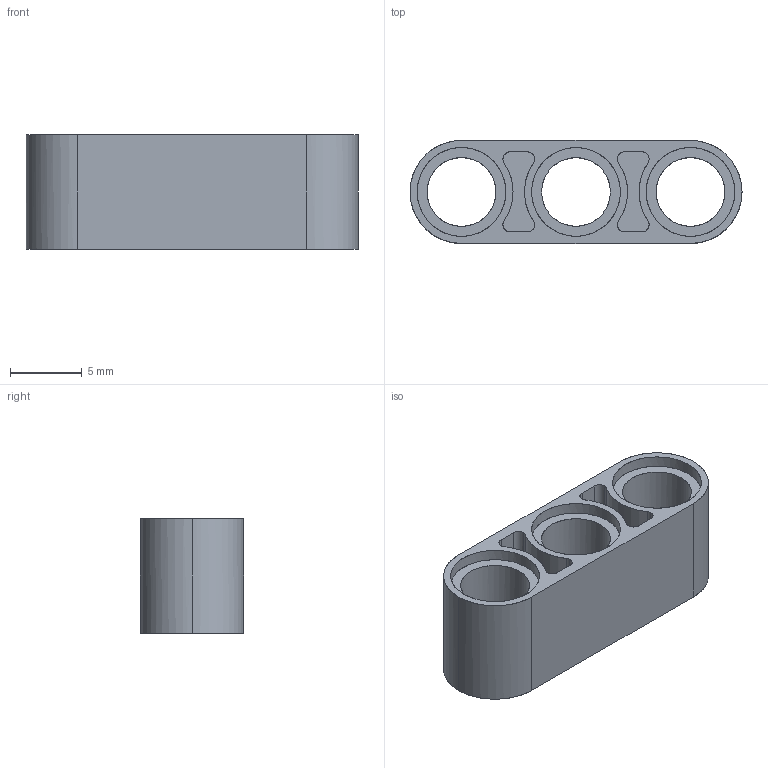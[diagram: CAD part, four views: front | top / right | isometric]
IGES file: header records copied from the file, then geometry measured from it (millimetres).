
Start section: C
Global section: file name: Ye_4153707_AVV.iges; native system: By Siemens PLM Incorporated; preprocessor: XPlus GENERIC/IGES 26.1.183; author: Author; organization: Title; date: 20250722.000816; units: millimetre
Bounding box: 23.2 x 7.2 x 8 mm (x, y, z)
Surface area: 1214.1 mm2 (no closed solid volume)
Topology: 0 solids, 0 shells, 71 faces, 390 edges, 390 vertices
Faces by surface type: bspline 71
